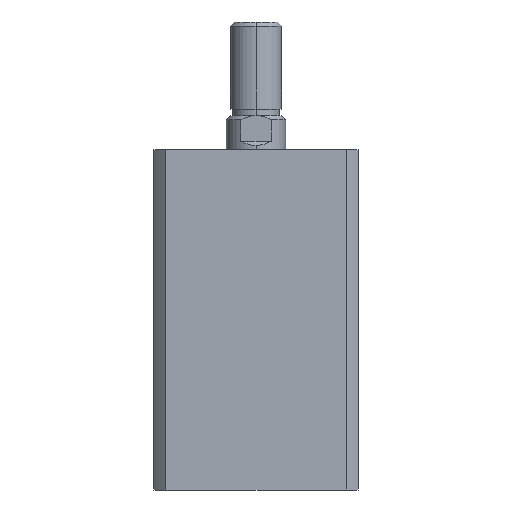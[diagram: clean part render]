
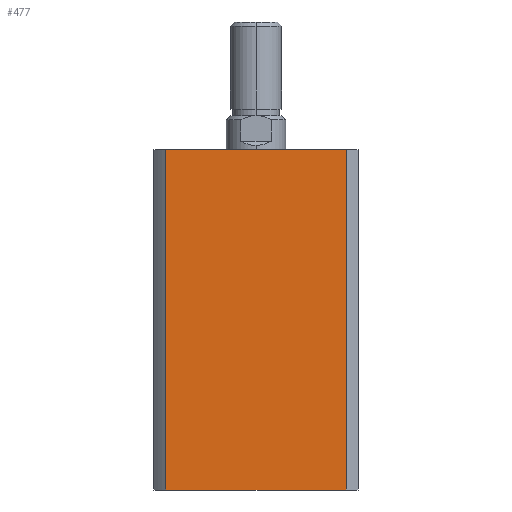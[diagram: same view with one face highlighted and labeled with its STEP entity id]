
A CAD part, left-side view. The second image highlights one B-rep face of the part: STEP entity #477.
In plain terms, the highlighted planar face has unit normal (-1, 0, 0).
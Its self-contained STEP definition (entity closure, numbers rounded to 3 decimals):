
#477 = ADVANCED_FACE ( 'NONE', ( #693 ), #4129, .F. ) ;
#693 = FACE_OUTER_BOUND ( 'NONE', #1898, .T. ) ;
#1045 = LINE ( 'NONE', #4976, #1047 ) ;
#1047 = VECTOR ( 'NONE', #4977, 1000. ) ;
#1058 = LINE ( 'NONE', #5142, #1083 ) ;
#1079 = LINE ( 'NONE', #5136, #1081 ) ;
#1080 = LINE ( 'NONE', #5141, #1085 ) ;
#1081 = VECTOR ( 'NONE', #5137, 1000. ) ;
#1083 = VECTOR ( 'NONE', #5148, 1000. ) ;
#1085 = VECTOR ( 'NONE', #5150, 1000. ) ;
#1643 = VERTEX_POINT ( 'NONE', #4679 ) ;
#1659 = VERTEX_POINT ( 'NONE', #4695 ) ;
#1663 = VERTEX_POINT ( 'NONE', #4699 ) ;
#1858 = VERTEX_POINT ( 'NONE', #4748 ) ;
#1898 = EDGE_LOOP ( 'NONE', ( #2590, #5191, #5193, #5194 ) ) ;
#2176 = EDGE_CURVE ( 'NONE', #1858, #1663, #1045, .T. ) ;
#2205 = EDGE_CURVE ( 'NONE', #1659, #1643, #1079, .T. ) ;
#2206 = EDGE_CURVE ( 'NONE', #1663, #1643, #1058, .T. ) ;
#2207 = EDGE_CURVE ( 'NONE', #1858, #1659, #1080, .T. ) ;
#2590 = ORIENTED_EDGE ( 'NONE', *, *, #2205, .T. ) ;
#4125 = DIRECTION ( 'NONE',  ( 0., 0., -1. ) ) ;
#4126 = DIRECTION ( 'NONE',  ( 1., 0., 0. ) ) ;
#4129 = PLANE ( 'NONE',  #4185 ) ;
#4131 = CARTESIAN_POINT ( 'NONE',  ( -24., 0., 80. ) ) ;
#4185 = AXIS2_PLACEMENT_3D ( 'NONE', #4131, #4126, #4125 ) ;
#4679 = CARTESIAN_POINT ( 'NONE',  ( -24., -21.166, 0. ) ) ;
#4695 = CARTESIAN_POINT ( 'NONE',  ( -24., 21.166, 0. ) ) ;
#4699 = CARTESIAN_POINT ( 'NONE',  ( -24., -21.166, 80. ) ) ;
#4748 = CARTESIAN_POINT ( 'NONE',  ( -24., 21.166, 80. ) ) ;
#4976 = CARTESIAN_POINT ( 'NONE',  ( -24., 0., 80. ) ) ;
#4977 = DIRECTION ( 'NONE',  ( 0., -1., 0. ) ) ;
#5136 = CARTESIAN_POINT ( 'NONE',  ( -24., 0., 0. ) ) ;
#5137 = DIRECTION ( 'NONE',  ( 0., -1., 0. ) ) ;
#5141 = CARTESIAN_POINT ( 'NONE',  ( -24., 21.166, 80. ) ) ;
#5142 = CARTESIAN_POINT ( 'NONE',  ( -24., -21.166, 80. ) ) ;
#5148 = DIRECTION ( 'NONE',  ( 0., 0., -1. ) ) ;
#5150 = DIRECTION ( 'NONE',  ( 0., 0., -1. ) ) ;
#5191 = ORIENTED_EDGE ( 'NONE', *, *, #2206, .F. ) ;
#5193 = ORIENTED_EDGE ( 'NONE', *, *, #2176, .F. ) ;
#5194 = ORIENTED_EDGE ( 'NONE', *, *, #2207, .T. ) ;
